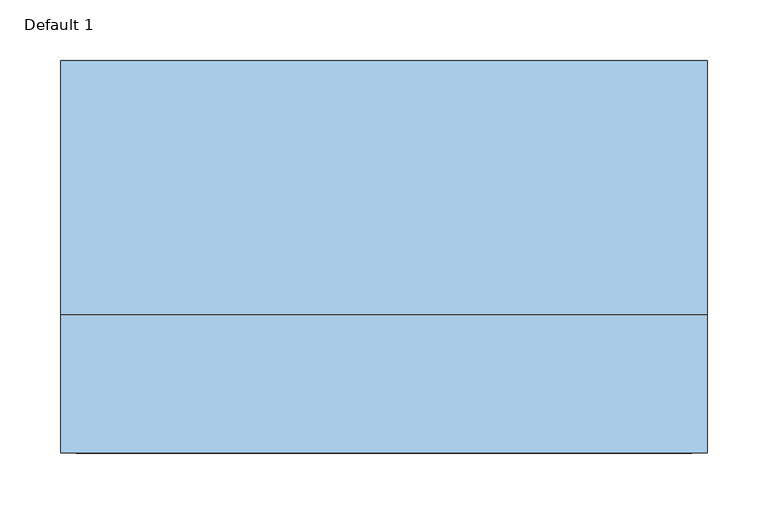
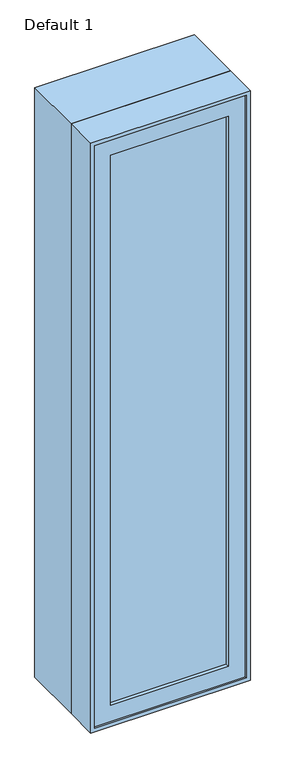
"""IFC4 building model written with IfcOpenShell, lengths in millimetres: window geometry, Planitar-Casement-Single_Left : Default 1."""

from ifc_helpers import new_model, si_unit, frame, origin, place, context, project, spatial, polyline, outline, extrude, faceted_brep, source, transform, mapped, element, save


def default_1_c0464448(model_context):
    return source(origin(), model_context, "Body", "SolidModel", [
        extrude(outline(polyline([(196.85, -152.4), (-196.85, -152.4), (-196.85, -146.05), (196.85, -146.05), (196.85, -152.4)])), frame((0.0, 0.0, 984.25), z_axis=(0.0, 0.0, 1.0), x_axis=(1.0, 0.0, 0.0)), (0.0, 0.0, 1.0), 1943.1),
        extrude(outline(polyline([(-196.85, -133.35), (196.85, -133.35), (196.85, -139.7), (-196.85, -139.7), (-196.85, -133.35)])), frame((0.0, 0.0, 984.25), z_axis=(0.0, 0.0, 1.0), x_axis=(1.0, 0.0, 0.0)), (0.0, 0.0, 1.0), 1943.1),
        extrude(outline(polyline([(2984.5, 254.0), (2984.5, -254.0), (927.1, -254.0), (927.1, 254.0), (2984.5, 254.0)]), holes=[polyline([(2927.35, -196.85), (2927.35, 196.85), (984.25, 196.85), (984.25, -196.85), (2927.35, -196.85)])]), frame((0.0, -165.1, 0.0), z_axis=(0.0, 1.0, 0.0), x_axis=(0.0, 0.0, 1.0)), (0.0, 0.0, 1.0), 44.45),
        extrude(outline(polyline([(2997.2, -266.7), (914.4, -266.7), (914.4, 266.7), (2997.2, 266.7), (2997.2, -266.7)]), holes=[polyline([(2978.15, 247.65), (933.45, 247.65), (933.45, -247.65), (2978.15, -247.65), (2978.15, 247.65)])]), frame((0.0, -57.15, 0.0), z_axis=(0.0, 1.0, 0.0), x_axis=(0.0, 0.0, 1.0)), (0.0, 0.0, 1.0), 209.55),
        faceted_brep([(234.95, -120.65, 2965.45), (-234.95, -120.65, 2965.45), (-234.95, -57.15, 2965.45), (234.95, -57.15, 2965.45), (254.0, -171.45, 2984.5), (-254.0, -171.45, 2984.5), (-254.0, -120.65, 2984.5), (254.0, -120.65, 2984.5), (266.7, -57.15, 2997.2), (-266.7, -57.15, 2997.2), (-266.7, -171.45, 2997.2), (266.7, -171.45, 2997.2), (-234.95, -120.65, 946.15), (-234.95, -57.15, 946.15), (-254.0, -171.45, 927.1), (-254.0, -120.65, 927.1), (-266.7, -57.15, 914.4), (-266.7, -171.45, 914.4), (234.95, -120.65, 946.15), (234.95, -57.15, 946.15), (254.0, -171.45, 927.1), (254.0, -120.65, 927.1), (266.7, -57.15, 914.4), (266.7, -171.45, 914.4)], [[[0, 1, 2, 3]], [[4, 5, 6, 7]], [[8, 9, 10, 11]], [[1, 12, 13, 2]], [[5, 14, 15, 6]], [[9, 16, 17, 10]], [[12, 18, 19, 13]], [[14, 20, 21, 15]], [[16, 22, 23, 17]], [[9, 8, 22, 16], [3, 2, 13, 19]], [[18, 0, 3, 19]], [[7, 6, 15, 21], [1, 0, 18, 12]], [[20, 4, 7, 21]], [[22, 8, 11, 23]], [[11, 10, 17, 23], [5, 4, 20, 14]]]),
    ])


if __name__ == "__main__":
    model = new_model("IFC4")
    model_context = context("Model", 3, world=origin())
    ifc_project = project(units=[si_unit("LENGTHUNIT", "METRE", prefix="MILLI")], contexts=[model_context])
    site = spatial("IfcSite", under=ifc_project)
    building = spatial("IfcBuilding", under=site)
    placement = place(None, origin())
    default_1_shape = default_1_c0464448(model_context)
    element("IfcWindow", 1, ObjectType="Planitar-Casement-Single_Left : Default 1", at=placement, inside=building, context=model_context, shape_type="MappedRepresentation", body=[
        mapped(default_1_shape, transform((0.0, 0.0, 0.0), x_axis=(1.0, 0.0, 0.0), y_axis=(0.0, 1.0, 0.0), z_axis=(0.0, 0.0, 1.0))),
    ])
    save(model, "model.ifc")
